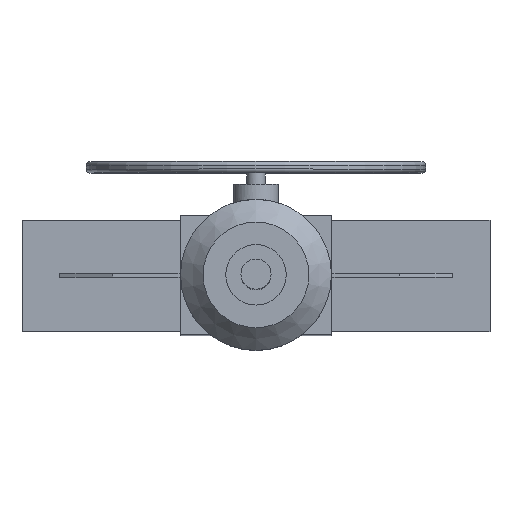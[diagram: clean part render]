
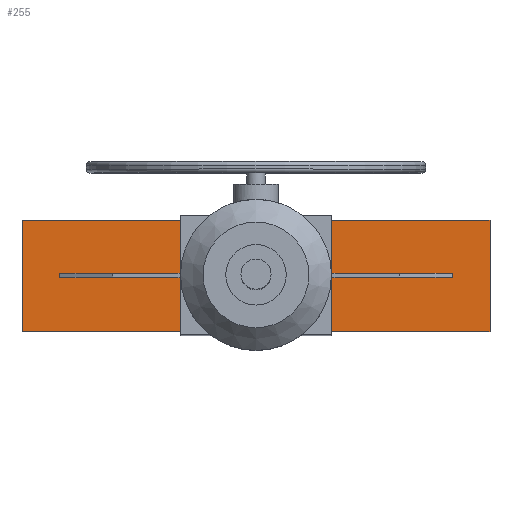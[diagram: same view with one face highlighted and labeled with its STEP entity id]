
A CAD part, top view. The second image highlights one B-rep face of the part: STEP entity #255.
In plain terms, the highlighted planar face has unit normal (0, 0, 1).
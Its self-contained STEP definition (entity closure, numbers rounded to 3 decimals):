
#255=ADVANCED_FACE('',(#2288,#2290),#2292,.T.);
#2288=FACE_BOUND('',#2289,.T.);
#2289=EDGE_LOOP('',(#4006,#4007,#4008,#4009,#4010,#4011,#4012,#4013));
#2290=FACE_BOUND('',#2291,.T.);
#2291=EDGE_LOOP('',(#4014,#4015,#4016,#4017));
#2292=PLANE('',#2293);
#2293=AXIS2_PLACEMENT_3D('',#2294,#2295,#2296);
#2294=CARTESIAN_POINT('',(0.,0.,530.));
#2295=DIRECTION('',(0.,0.,1.));
#2296=DIRECTION('',(1.,0.,0.));
#4006=ORIENTED_EDGE('',*,*,#4994,.F.);
#4007=ORIENTED_EDGE('',*,*,#4992,.T.);
#4008=ORIENTED_EDGE('',*,*,#5001,.T.);
#4009=ORIENTED_EDGE('',*,*,#4983,.T.);
#4010=ORIENTED_EDGE('',*,*,#4997,.F.);
#4011=ORIENTED_EDGE('',*,*,#4987,.T.);
#4012=ORIENTED_EDGE('',*,*,#5002,.T.);
#4013=ORIENTED_EDGE('',*,*,#4988,.T.);
#4014=ORIENTED_EDGE('',*,*,#5003,.F.);
#4015=ORIENTED_EDGE('',*,*,#5004,.F.);
#4016=ORIENTED_EDGE('',*,*,#5005,.F.);
#4017=ORIENTED_EDGE('',*,*,#5006,.F.);
#4983=EDGE_CURVE('',#5533,#5501,#5534,.T.);
#4987=EDGE_CURVE('',#5517,#5539,#5541,.T.);
#4988=EDGE_CURVE('',#5542,#5523,#5543,.T.);
#4992=EDGE_CURVE('',#5507,#5548,#5550,.T.);
#4994=EDGE_CURVE('',#5507,#5523,#5552,.T.);
#4997=EDGE_CURVE('',#5517,#5501,#5556,.T.);
#5001=EDGE_CURVE('',#5548,#5533,#5563,.T.);
#5002=EDGE_CURVE('',#5539,#5542,#5564,.T.);
#5003=EDGE_CURVE('',#5565,#5566,#5567,.T.);
#5004=EDGE_CURVE('',#5568,#5565,#5569,.F.);
#5005=EDGE_CURVE('',#5570,#5568,#5571,.T.);
#5006=EDGE_CURVE('',#5566,#5570,#5572,.T.);
#5501=VERTEX_POINT('',#6446);
#5507=VERTEX_POINT('',#6458);
#5517=VERTEX_POINT('',#6480);
#5523=VERTEX_POINT('',#6492);
#5533=VERTEX_POINT('',#6516);
#5534=LINE('',#6517,#6518);
#5539=VERTEX_POINT('',#6528);
#5541=LINE('',#6532,#6533);
#5542=VERTEX_POINT('',#6535);
#5543=LINE('',#6536,#6537);
#5548=VERTEX_POINT('',#6547);
#5550=LINE('',#6551,#6552);
#5552=LINE('',#6557,#6558);
#5556=LINE('',#6568,#6569);
#5563=LINE('',#6650,#6651);
#5564=LINE('',#6653,#6654);
#5565=VERTEX_POINT('',#6656);
#5566=VERTEX_POINT('',#6657);
#5567=LINE('',#6658,#6659);
#5568=VERTEX_POINT('',#6661);
#5569=LINE('',#6662,#6663);
#5570=VERTEX_POINT('',#6665);
#5571=LINE('',#6666,#6667);
#5572=LINE('',#6669,#6670);
#6446=CARTESIAN_POINT('',(100.,74.,530.));
#6458=CARTESIAN_POINT('',(100.,-74.,530.));
#6480=CARTESIAN_POINT('',(-100.,74.,530.));
#6492=CARTESIAN_POINT('',(-100.,-74.,530.));
#6516=CARTESIAN_POINT('',(310.,74.,530.));
#6517=CARTESIAN_POINT('',(310.,74.,530.));
#6518=VECTOR('',#6519,1.);
#6519=DIRECTION('',(-1.,0.,0.));
#6528=CARTESIAN_POINT('',(-310.,74.,530.));
#6532=CARTESIAN_POINT('',(-100.,74.,530.));
#6533=VECTOR('',#6534,1.);
#6534=DIRECTION('',(-1.,0.,0.));
#6535=CARTESIAN_POINT('',(-310.,-74.,530.));
#6536=CARTESIAN_POINT('',(-310.,-74.,530.));
#6537=VECTOR('',#6538,1.);
#6538=DIRECTION('',(1.,0.,0.));
#6547=CARTESIAN_POINT('',(310.,-74.,530.));
#6551=CARTESIAN_POINT('',(100.,-74.,530.));
#6552=VECTOR('',#6553,1.);
#6553=DIRECTION('',(1.,0.,0.));
#6557=CARTESIAN_POINT('',(100.,-74.,530.));
#6558=VECTOR('',#6559,1.);
#6559=DIRECTION('',(-1.,0.,0.));
#6568=CARTESIAN_POINT('',(-100.,74.,530.));
#6569=VECTOR('',#6570,1.);
#6570=DIRECTION('',(1.,0.,0.));
#6650=CARTESIAN_POINT('',(310.,-74.,530.));
#6651=VECTOR('',#6652,1.);
#6652=DIRECTION('',(0.,1.,0.));
#6653=CARTESIAN_POINT('',(-310.,74.,530.));
#6654=VECTOR('',#6655,1.);
#6655=DIRECTION('',(0.,-1.,0.));
#6656=CARTESIAN_POINT('',(-260.,2.5,530.));
#6657=CARTESIAN_POINT('',(-260.,-2.5,530.));
#6658=CARTESIAN_POINT('',(-260.,2.5,530.));
#6659=VECTOR('',#6660,1.);
#6660=DIRECTION('',(0.,-1.,0.));
#6661=CARTESIAN_POINT('',(260.,2.5,530.));
#6662=CARTESIAN_POINT('',(-260.,2.5,530.));
#6663=VECTOR('',#6664,1.);
#6664=DIRECTION('',(1.,0.,0.));
#6665=CARTESIAN_POINT('',(260.,-2.5,530.));
#6666=CARTESIAN_POINT('',(260.,-2.5,530.));
#6667=VECTOR('',#6668,1.);
#6668=DIRECTION('',(0.,1.,0.));
#6669=CARTESIAN_POINT('',(-260.,-2.5,530.));
#6670=VECTOR('',#6671,1.);
#6671=DIRECTION('',(1.,0.,0.));
